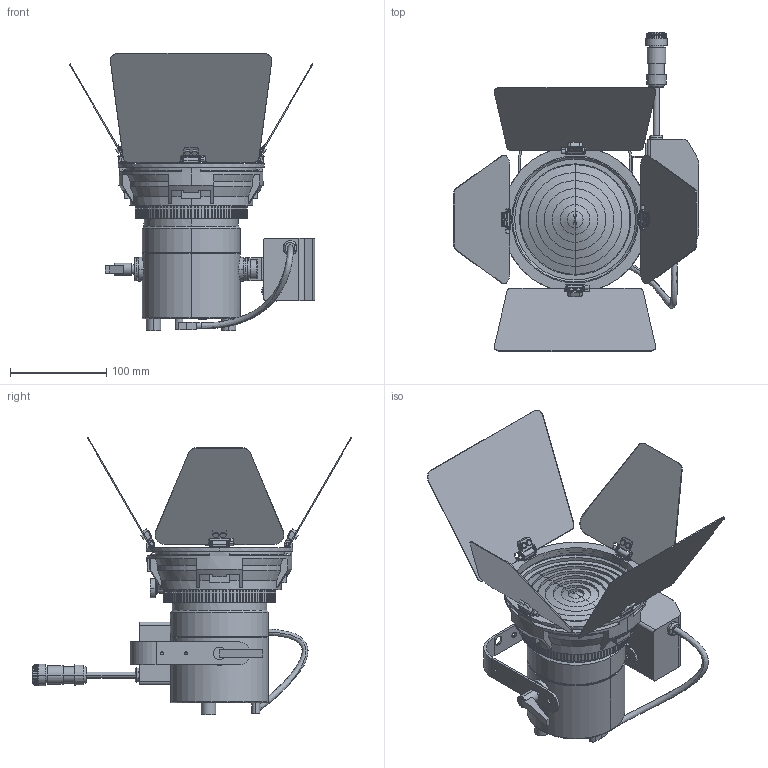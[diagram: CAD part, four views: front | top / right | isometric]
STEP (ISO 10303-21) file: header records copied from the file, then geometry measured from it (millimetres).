
FILE_DESCRIPTION (( 'STEP AP203' ), '1' );
FILE_NAME ('P3F(Clamp) Hanging.STEP', '2024-07-03T01:51:14', ( '' ), ( '' ), 'SwSTEP 2.0', 'SolidWorks 2014', '' );
FILE_SCHEMA (( 'CONFIG_CONTROL_DESIGN' ));
Length unit declared in the file: millimetre
Products named in the file (6): P3F(Clamp) Hanging; 5 inch Fresnel Zoom Lens (for Clamp); P3 Color - Light Body; P3 Color - Yoke for Track and Clamp; PSU 90W Clamp Mount_Hanging (for P3F); 5 inch 4-Leaf Barndoor (for Clamp)
Assembly tree (5 placements, depth 2):
  P3F(Clamp) Hanging
    P3 Color - Yoke for Track and Clamp
    P3 Color - Light Body
    5 inch Fresnel Zoom Lens (for Clamp)
    5 inch 4-Leaf Barndoor (for Clamp)
    PSU 90W Clamp Mount_Hanging (for P3F)
Bounding box: 255.35 x 332.22 x 288.72 mm (x, y, z)
Volume: 1765683 mm3; surface area: 385973.1 mm2
Topology: 83 solids, 86 shells, 2044 faces, 5204 edges, 3402 vertices
Faces by surface type: plane 943, cylinder 767, bspline 223, cone 101, torus 10
Entity records: 71656 total; most frequent: CARTESIAN_POINT 21791, ORIENTED_EDGE 10388, DIRECTION 9992, EDGE_CURVE 5194, AXIS2_PLACEMENT_3D 3519, VERTEX_POINT 3402, VECTOR 2954, LINE 2954
